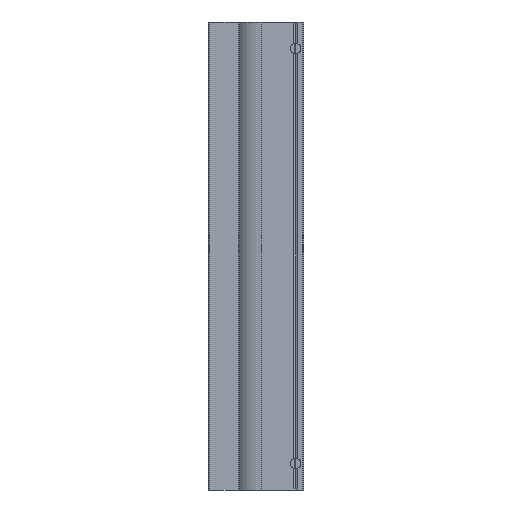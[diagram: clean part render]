
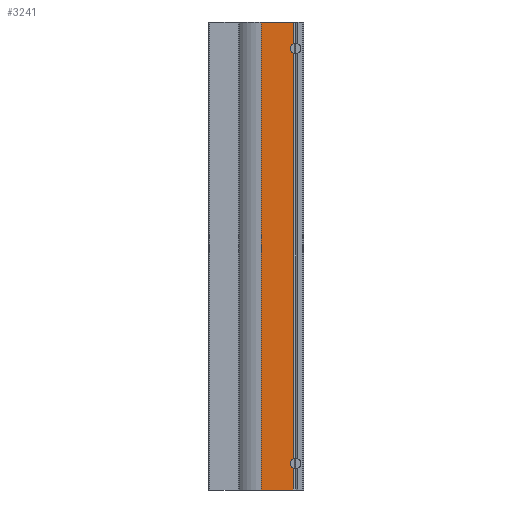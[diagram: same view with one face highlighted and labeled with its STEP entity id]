
A CAD part, left-side view. The second image highlights one B-rep face of the part: STEP entity #3241.
In plain terms, the highlighted planar face has unit normal (-1, 0, 0).
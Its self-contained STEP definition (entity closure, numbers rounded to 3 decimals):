
#54=LINE('',#5018,#246);
#55=LINE('',#5020,#247);
#56=LINE('',#5022,#248);
#57=LINE('',#5024,#249);
#58=LINE('',#5025,#250);
#59=LINE('',#5026,#251);
#246=VECTOR('',#3972,8.197);
#247=VECTOR('',#3973,12.134);
#248=VECTOR('',#3974,177.);
#249=VECTOR('',#3975,12.134);
#250=VECTOR('',#3976,8.197);
#251=VECTOR('',#3977,153.394);
#421=PLANE('',#3483);
#734=FACE_OUTER_BOUND('',#938,.T.);
#938=EDGE_LOOP('',(#2325,#2326,#2327,#2328,#2329,#2330,#2331,#2332));
#1281=CIRCLE('',#3445,2.);
#1288=CIRCLE('',#3462,2.);
#1473=VERTEX_POINT('',#4882);
#1477=VERTEX_POINT('',#4890);
#1489=VERTEX_POINT('',#4925);
#1493=VERTEX_POINT('',#4933);
#1519=VERTEX_POINT('',#5017);
#1520=VERTEX_POINT('',#5019);
#1521=VERTEX_POINT('',#5021);
#1522=VERTEX_POINT('',#5023);
#1812=EDGE_CURVE('',#1473,#1477,#1281,.T.);
#1828=EDGE_CURVE('',#1489,#1493,#1288,.T.);
#1865=EDGE_CURVE('',#1477,#1519,#54,.T.);
#1866=EDGE_CURVE('',#1519,#1520,#55,.T.);
#1867=EDGE_CURVE('',#1521,#1520,#56,.T.);
#1868=EDGE_CURVE('',#1521,#1522,#57,.T.);
#1869=EDGE_CURVE('',#1522,#1489,#58,.T.);
#1870=EDGE_CURVE('',#1493,#1473,#59,.T.);
#2325=ORIENTED_EDGE('',*,*,#1812,.T.);
#2326=ORIENTED_EDGE('',*,*,#1865,.T.);
#2327=ORIENTED_EDGE('',*,*,#1866,.T.);
#2328=ORIENTED_EDGE('',*,*,#1867,.F.);
#2329=ORIENTED_EDGE('',*,*,#1868,.T.);
#2330=ORIENTED_EDGE('',*,*,#1869,.T.);
#2331=ORIENTED_EDGE('',*,*,#1828,.T.);
#2332=ORIENTED_EDGE('',*,*,#1870,.T.);
#3241=ADVANCED_FACE('',(#734),#421,.T.);
#3445=AXIS2_PLACEMENT_3D('',#4892,#3869,#3870);
#3462=AXIS2_PLACEMENT_3D('',#4935,#3903,#3904);
#3483=AXIS2_PLACEMENT_3D('',#5016,#3970,#3971);
#3869=DIRECTION('center_axis',(1.,0.,0.));
#3870=DIRECTION('ref_axis',(0.,0.,1.));
#3903=DIRECTION('center_axis',(1.,0.,0.));
#3904=DIRECTION('ref_axis',(0.,0.,1.));
#3970=DIRECTION('center_axis',(-1.,0.,0.));
#3971=DIRECTION('ref_axis',(0.,0.,1.));
#3972=DIRECTION('',(0.,0.,1.));
#3973=DIRECTION('',(0.,1.,0.));
#3974=DIRECTION('',(0.,0.,1.));
#3975=DIRECTION('',(0.,-1.,0.));
#3976=DIRECTION('',(0.,0.,1.));
#3977=DIRECTION('',(0.,0.,1.));
#4882=CARTESIAN_POINT('',(-36.,3.866,76.697));
#4890=CARTESIAN_POINT('',(-36.,3.866,80.303));
#4892=CARTESIAN_POINT('Origin',(-36.,3.,78.5));
#4925=CARTESIAN_POINT('',(-36.,3.866,-80.303));
#4933=CARTESIAN_POINT('',(-36.,3.866,-76.697));
#4935=CARTESIAN_POINT('Origin',(-36.,3.,-78.5));
#5016=CARTESIAN_POINT('Origin',(-36.,3.866,0.));
#5017=CARTESIAN_POINT('',(-36.,3.866,88.5));
#5018=CARTESIAN_POINT('',(-36.,3.866,0.));
#5019=CARTESIAN_POINT('',(-36.,16.,88.5));
#5020=CARTESIAN_POINT('',(-36.,16.,88.5));
#5021=CARTESIAN_POINT('',(-36.,16.,-88.5));
#5022=CARTESIAN_POINT('',(-36.,16.,0.));
#5023=CARTESIAN_POINT('',(-36.,3.866,-88.5));
#5024=CARTESIAN_POINT('',(-36.,16.,-88.5));
#5025=CARTESIAN_POINT('',(-36.,3.866,0.));
#5026=CARTESIAN_POINT('',(-36.,3.866,0.));
